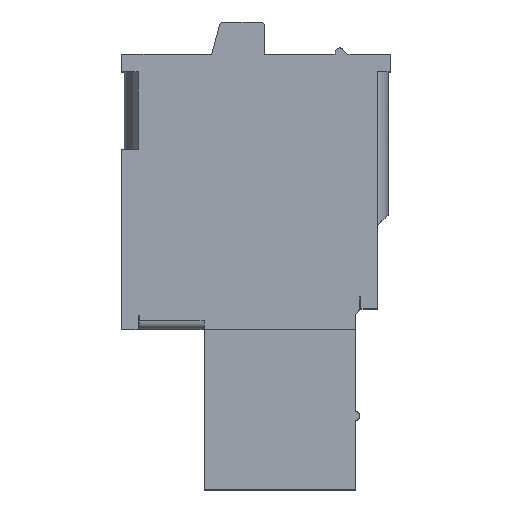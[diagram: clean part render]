
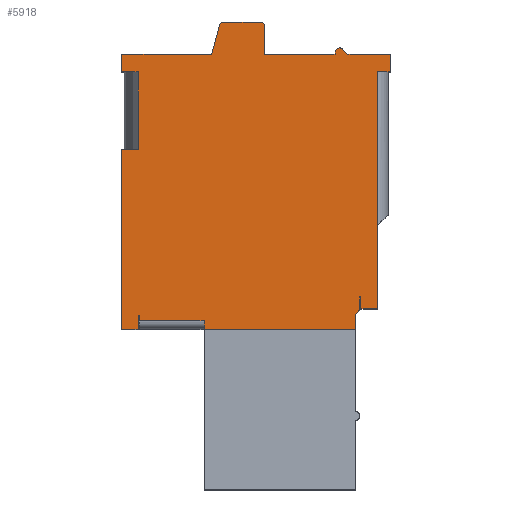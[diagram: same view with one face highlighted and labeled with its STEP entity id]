
A CAD part, top view. The second image highlights one B-rep face of the part: STEP entity #5918.
In plain terms, the highlighted planar face has unit normal (0, 0, 1).
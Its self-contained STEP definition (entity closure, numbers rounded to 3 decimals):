
#25=DIRECTION('',(0.,1.,0.));
#26=VECTOR('',#25,10.95);
#27=CARTESIAN_POINT('',(11.8,0.95,-7.62));
#28=LINE('',#27,#26);
#49=DIRECTION('',(1.,0.,0.));
#50=VECTOR('',#49,0.75);
#51=CARTESIAN_POINT('',(11.05,0.95,-7.62));
#52=LINE('',#51,#50);
#61=DIRECTION('',(0.,-1.,0.));
#62=VECTOR('',#61,0.55);
#63=CARTESIAN_POINT('',(11.05,1.5,-7.62));
#64=LINE('',#63,#62);
#192=DIRECTION('',(0.,1.,0.));
#193=VECTOR('',#192,0.66);
#194=CARTESIAN_POINT('',(0.75,0.,-7.62));
#195=LINE('',#194,#193);
#200=DIRECTION('',(1.,0.,0.));
#201=VECTOR('',#200,0.75);
#202=CARTESIAN_POINT('',(0.,0.,-7.62));
#203=LINE('',#202,#201);
#208=DIRECTION('',(0.,-1.,0.));
#209=VECTOR('',#208,8.3);
#210=CARTESIAN_POINT('',(0.,8.3,-7.62));
#211=LINE('',#210,#209);
#221=DIRECTION('',(-1.,0.,0.));
#222=VECTOR('',#221,0.75);
#223=CARTESIAN_POINT('',(0.75,8.3,-7.62));
#224=LINE('',#223,#222);
#247=DIRECTION('',(1.,0.,0.));
#248=VECTOR('',#247,0.75);
#249=CARTESIAN_POINT('',(0.,11.9,-7.62));
#250=LINE('',#249,#248);
#274=DIRECTION('',(0.,-1.,0.));
#275=VECTOR('',#274,0.8);
#276=CARTESIAN_POINT('',(0.,12.7,-7.62));
#277=LINE('',#276,#275);
#294=DIRECTION('',(-1.,0.,0.));
#295=VECTOR('',#294,4.15);
#296=CARTESIAN_POINT('',(4.15,12.7,-7.62));
#297=LINE('',#296,#295);
#384=DIRECTION('',(-1.,0.,0.));
#385=VECTOR('',#384,3.25);
#386=CARTESIAN_POINT('',(9.85,12.7,-7.62));
#387=LINE('',#386,#385);
#428=DIRECTION('',(-1.,0.,0.));
#429=VECTOR('',#428,1.95);
#430=CARTESIAN_POINT('',(12.4,12.7,-7.62));
#431=LINE('',#430,#429);
#478=DIRECTION('',(0.,1.,0.));
#479=VECTOR('',#478,0.8);
#480=CARTESIAN_POINT('',(12.4,11.9,-7.62));
#481=LINE('',#480,#479);
#500=DIRECTION('',(1.,0.,0.));
#501=VECTOR('',#500,0.6);
#502=CARTESIAN_POINT('',(11.8,11.9,-7.62));
#503=LINE('',#502,#501);
#554=DIRECTION('',(-1.,0.,0.));
#555=VECTOR('',#554,0.05);
#556=CARTESIAN_POINT('',(11.05,1.5,-7.62));
#557=LINE('',#556,#555);
#558=DIRECTION('',(-0.707,-0.707,0.));
#559=VECTOR('',#558,0.283);
#560=CARTESIAN_POINT('',(11.,0.9,-7.62));
#561=LINE('',#560,#559);
#562=DIRECTION('',(-1.,0.,0.));
#563=VECTOR('',#562,7.);
#564=CARTESIAN_POINT('',(10.8,0.,-7.62));
#565=LINE('',#564,#563);
#566=DIRECTION('',(0.,1.,0.));
#567=VECTOR('',#566,0.26);
#568=CARTESIAN_POINT('',(0.8,0.4,-7.62));
#569=LINE('',#568,#567);
#570=DIRECTION('',(-1.,0.,0.));
#571=VECTOR('',#570,0.05);
#572=CARTESIAN_POINT('',(0.8,0.66,-7.62));
#573=LINE('',#572,#571);
#574=DIRECTION('',(0.259,0.966,0.));
#575=VECTOR('',#574,1.399);
#576=CARTESIAN_POINT('',(4.15,12.7,-7.62));
#577=LINE('',#576,#575);
#578=CARTESIAN_POINT('',(4.705,14.,-7.62));
#579=DIRECTION('',(0.,0.,-1.));
#580=DIRECTION('',(-0.966,0.259,0.));
#581=AXIS2_PLACEMENT_3D('',#578,#579,#580);
#583=CARTESIAN_POINT('',(6.4,14.,-7.62));
#584=DIRECTION('',(0.,0.,-1.));
#585=DIRECTION('',(0.,1.,0.));
#586=AXIS2_PLACEMENT_3D('',#583,#584,#585);
#588=DIRECTION('',(0.148,0.989,0.));
#589=VECTOR('',#588,0.131);
#590=CARTESIAN_POINT('',(9.85,12.7,-7.62));
#591=LINE('',#590,#589);
#592=CARTESIAN_POINT('',(10.067,12.8,-7.62));
#593=DIRECTION('',(0.,0.,-1.));
#594=DIRECTION('',(-0.989,0.148,0.));
#595=AXIS2_PLACEMENT_3D('',#592,#593,#594);
#597=DIRECTION('',(0.707,-0.707,0.));
#598=VECTOR('',#597,0.341);
#599=CARTESIAN_POINT('',(10.209,12.941,-7.62));
#600=LINE('',#599,#598);
#609=DIRECTION('',(0.,1.,0.));
#610=VECTOR('',#609,0.6);
#611=CARTESIAN_POINT('',(11.,0.9,-7.62));
#612=LINE('',#611,#610);
#621=DIRECTION('',(0.,1.,0.));
#622=VECTOR('',#621,0.7);
#623=CARTESIAN_POINT('',(10.8,0.,-7.62));
#624=LINE('',#623,#622);
#717=DIRECTION('',(0.,-1.,0.));
#718=VECTOR('',#717,0.4);
#719=CARTESIAN_POINT('',(3.8,0.4,-7.62));
#720=LINE('',#719,#718);
#768=DIRECTION('',(1.,0.,0.));
#769=VECTOR('',#768,3.);
#770=CARTESIAN_POINT('',(0.8,0.4,-7.62));
#771=LINE('',#770,#769);
#1947=DIRECTION('',(0.,-1.,0.));
#1948=VECTOR('',#1947,3.6);
#1949=CARTESIAN_POINT('',(0.75,11.9,-7.62));
#1950=LINE('',#1949,#1948);
#1967=DIRECTION('',(-1.,0.,0.));
#1968=VECTOR('',#1967,1.695);
#1969=CARTESIAN_POINT('',(6.4,14.2,-7.62));
#1970=LINE('',#1969,#1968);
#1987=DIRECTION('',(0.,1.,0.));
#1988=VECTOR('',#1987,1.3);
#1989=CARTESIAN_POINT('',(6.6,12.7,-7.62));
#1990=LINE('',#1989,#1988);
#3900=CARTESIAN_POINT('',(11.05,0.95,-7.62));
#3902=VERTEX_POINT('',#3900);
#3904=CARTESIAN_POINT('',(0.75,0.,-7.62));
#3906=VERTEX_POINT('',#3904);
#3909=CARTESIAN_POINT('',(0.,0.,-7.62));
#3911=VERTEX_POINT('',#3909);
#3912=CARTESIAN_POINT('',(0.,8.3,-7.62));
#3914=VERTEX_POINT('',#3912);
#3946=CARTESIAN_POINT('',(0.75,8.3,-7.62));
#3947=VERTEX_POINT('',#3946);
#3960=CARTESIAN_POINT('',(0.,11.9,-7.62));
#3962=VERTEX_POINT('',#3960);
#3964=CARTESIAN_POINT('',(0.75,11.9,-7.62));
#3965=VERTEX_POINT('',#3964);
#3976=CARTESIAN_POINT('',(0.,12.7,-7.62));
#3978=VERTEX_POINT('',#3976);
#3990=CARTESIAN_POINT('',(4.15,12.7,-7.62));
#3991=VERTEX_POINT('',#3990);
#4041=CARTESIAN_POINT('',(9.85,12.7,-7.62));
#4043=VERTEX_POINT('',#4041);
#4044=CARTESIAN_POINT('',(6.6,12.7,-7.62));
#4045=VERTEX_POINT('',#4044);
#4056=CARTESIAN_POINT('',(9.869,12.83,-7.62));
#4058=VERTEX_POINT('',#4056);
#4061=CARTESIAN_POINT('',(10.209,12.941,-7.62));
#4063=VERTEX_POINT('',#4061);
#4074=CARTESIAN_POINT('',(10.45,12.7,-7.62));
#4075=VERTEX_POINT('',#4074);
#4092=CARTESIAN_POINT('',(12.4,12.7,-7.62));
#4094=VERTEX_POINT('',#4092);
#4114=CARTESIAN_POINT('',(12.4,11.9,-7.62));
#4116=VERTEX_POINT('',#4114);
#4126=CARTESIAN_POINT('',(11.8,11.9,-7.62));
#4127=VERTEX_POINT('',#4126);
#4140=CARTESIAN_POINT('',(11.8,0.95,-7.62));
#4142=VERTEX_POINT('',#4140);
#4176=CARTESIAN_POINT('',(4.512,14.052,-7.62));
#4177=VERTEX_POINT('',#4176);
#4178=CARTESIAN_POINT('',(4.705,14.2,-7.62));
#4179=VERTEX_POINT('',#4178);
#4180=CARTESIAN_POINT('',(6.4,14.2,-7.62));
#4181=VERTEX_POINT('',#4180);
#4182=CARTESIAN_POINT('',(6.6,14.,-7.62));
#4183=VERTEX_POINT('',#4182);
#4275=CARTESIAN_POINT('',(10.8,0.,-7.62));
#4276=CARTESIAN_POINT('',(3.8,0.,-7.62));
#4277=VERTEX_POINT('',#4275);
#4278=VERTEX_POINT('',#4276);
#4279=CARTESIAN_POINT('',(3.8,0.4,-7.62));
#4280=VERTEX_POINT('',#4279);
#4281=CARTESIAN_POINT('',(0.8,0.4,-7.62));
#4282=VERTEX_POINT('',#4281);
#4283=CARTESIAN_POINT('',(11.,0.9,-7.62));
#4284=CARTESIAN_POINT('',(10.8,0.7,-7.62));
#4285=VERTEX_POINT('',#4283);
#4286=VERTEX_POINT('',#4284);
#4874=CARTESIAN_POINT('',(11.05,1.5,-7.62));
#4876=VERTEX_POINT('',#4874);
#4878=CARTESIAN_POINT('',(0.75,0.66,-7.62));
#4880=VERTEX_POINT('',#4878);
#4998=CARTESIAN_POINT('',(0.8,0.66,-7.62));
#5000=VERTEX_POINT('',#4998);
#5001=CARTESIAN_POINT('',(11.,1.5,-7.62));
#5003=VERTEX_POINT('',#5001);
#5866=CARTESIAN_POINT('',(0.,0.,-7.62));
#5867=DIRECTION('',(0.,0.,-1.));
#5868=DIRECTION('',(1.,0.,0.));
#5869=AXIS2_PLACEMENT_3D('',#5866,#5867,#5868);
#5870=PLANE('',#5869);
#5871=ORIENTED_EDGE('',*,*,#5292,.T.);
#5873=ORIENTED_EDGE('',*,*,#5872,.F.);
#5875=ORIENTED_EDGE('',*,*,#5874,.T.);
#5877=ORIENTED_EDGE('',*,*,#5876,.F.);
#5879=ORIENTED_EDGE('',*,*,#5878,.T.);
#5881=ORIENTED_EDGE('',*,*,#5880,.F.);
#5883=ORIENTED_EDGE('',*,*,#5882,.F.);
#5885=ORIENTED_EDGE('',*,*,#5884,.T.);
#5886=ORIENTED_EDGE('',*,*,#5372,.T.);
#5887=ORIENTED_EDGE('',*,*,#5389,.F.);
#5888=ORIENTED_EDGE('',*,*,#5401,.F.);
#5889=ORIENTED_EDGE('',*,*,#5415,.F.);
#5890=ORIENTED_EDGE('',*,*,#5463,.F.);
#5892=ORIENTED_EDGE('',*,*,#5891,.F.);
#5893=ORIENTED_EDGE('',*,*,#5500,.F.);
#5894=ORIENTED_EDGE('',*,*,#5526,.F.);
#5895=ORIENTED_EDGE('',*,*,#5548,.F.);
#5897=ORIENTED_EDGE('',*,*,#5896,.T.);
#5899=ORIENTED_EDGE('',*,*,#5898,.T.);
#5901=ORIENTED_EDGE('',*,*,#5900,.F.);
#5903=ORIENTED_EDGE('',*,*,#5902,.T.);
#5905=ORIENTED_EDGE('',*,*,#5904,.F.);
#5906=ORIENTED_EDGE('',*,*,#5671,.F.);
#5907=ORIENTED_EDGE('',*,*,#5697,.T.);
#5908=ORIENTED_EDGE('',*,*,#5711,.T.);
#5909=ORIENTED_EDGE('',*,*,#5733,.T.);
#5910=ORIENTED_EDGE('',*,*,#5763,.F.);
#5911=ORIENTED_EDGE('',*,*,#5804,.F.);
#5912=ORIENTED_EDGE('',*,*,#5822,.F.);
#5913=ORIENTED_EDGE('',*,*,#5191,.F.);
#5914=ORIENTED_EDGE('',*,*,#5259,.F.);
#5915=ORIENTED_EDGE('',*,*,#5274,.F.);
#5916=EDGE_LOOP('',(#5871,#5873,#5875,#5877,#5879,#5881,#5883,#5885,#5886,#5887,
#5888,#5889,#5890,#5892,#5893,#5894,#5895,#5897,#5899,#5901,#5903,#5905,#5906,
#5907,#5908,#5909,#5910,#5911,#5912,#5913,#5914,#5915));
#5917=FACE_OUTER_BOUND('',#5916,.F.);
#5918=ADVANCED_FACE('',(#5917),#5870,.F.);
#582=CIRCLE('',#581,0.2);
#587=CIRCLE('',#586,0.2);
#596=CIRCLE('',#595,0.2);
#5191=EDGE_CURVE('',#4142,#4127,#28,.T.);
#5259=EDGE_CURVE('',#3902,#4142,#52,.T.);
#5274=EDGE_CURVE('',#4876,#3902,#64,.T.);
#5292=EDGE_CURVE('',#4876,#5003,#557,.T.);
#5372=EDGE_CURVE('',#5000,#4880,#573,.T.);
#5389=EDGE_CURVE('',#3906,#4880,#195,.T.);
#5401=EDGE_CURVE('',#3911,#3906,#203,.T.);
#5415=EDGE_CURVE('',#3914,#3911,#211,.T.);
#5463=EDGE_CURVE('',#3947,#3914,#224,.T.);
#5500=EDGE_CURVE('',#3962,#3965,#250,.T.);
#5526=EDGE_CURVE('',#3978,#3962,#277,.T.);
#5548=EDGE_CURVE('',#3991,#3978,#297,.T.);
#5671=EDGE_CURVE('',#4043,#4045,#387,.T.);
#5697=EDGE_CURVE('',#4043,#4058,#591,.T.);
#5711=EDGE_CURVE('',#4058,#4063,#596,.T.);
#5733=EDGE_CURVE('',#4063,#4075,#600,.T.);
#5763=EDGE_CURVE('',#4094,#4075,#431,.T.);
#5804=EDGE_CURVE('',#4116,#4094,#481,.T.);
#5822=EDGE_CURVE('',#4127,#4116,#503,.T.);
#5872=EDGE_CURVE('',#4285,#5003,#612,.T.);
#5874=EDGE_CURVE('',#4285,#4286,#561,.T.);
#5876=EDGE_CURVE('',#4277,#4286,#624,.T.);
#5878=EDGE_CURVE('',#4277,#4278,#565,.T.);
#5880=EDGE_CURVE('',#4280,#4278,#720,.T.);
#5882=EDGE_CURVE('',#4282,#4280,#771,.T.);
#5884=EDGE_CURVE('',#4282,#5000,#569,.T.);
#5891=EDGE_CURVE('',#3965,#3947,#1950,.T.);
#5896=EDGE_CURVE('',#3991,#4177,#577,.T.);
#5898=EDGE_CURVE('',#4177,#4179,#582,.T.);
#5900=EDGE_CURVE('',#4181,#4179,#1970,.T.);
#5902=EDGE_CURVE('',#4181,#4183,#587,.T.);
#5904=EDGE_CURVE('',#4045,#4183,#1990,.T.);
